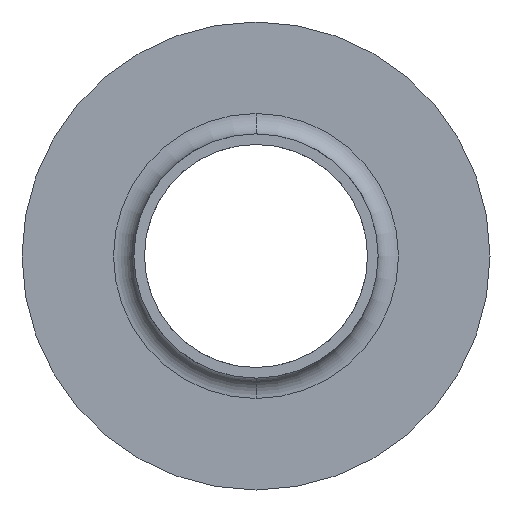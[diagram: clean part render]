
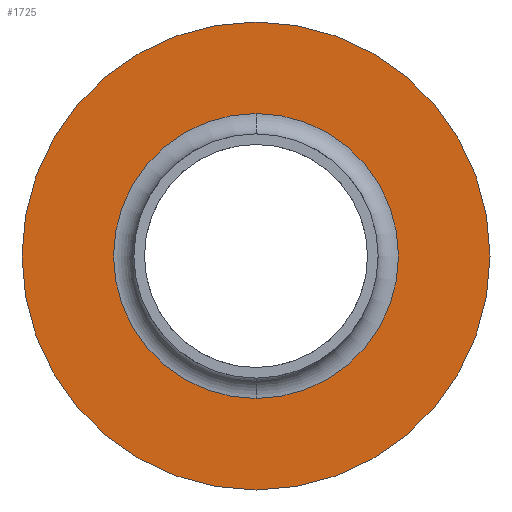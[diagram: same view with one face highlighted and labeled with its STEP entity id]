
A CAD part, front view. The second image highlights one B-rep face of the part: STEP entity #1725.
In plain terms, the highlighted planar face has unit normal (0, -1, 0).
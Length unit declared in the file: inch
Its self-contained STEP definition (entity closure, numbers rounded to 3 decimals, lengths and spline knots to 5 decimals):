
#4 = CARTESIAN_POINT ( 'NONE',  ( 0., 0.38789, 0. ) ) ;
#69 = CIRCLE ( 'NONE', #717, 1.437 ) ;
#70 = CARTESIAN_POINT ( 'NONE',  ( 0., 0.38789, -1.437 ) ) ;
#106 = EDGE_CURVE ( 'NONE', #1174, #1313, #248, .T. ) ;
#248 = CIRCLE ( 'NONE', #2646, 0.875 ) ;
#294 = PLANE ( 'NONE',  #2235 ) ;
#297 = EDGE_CURVE ( 'NONE', #1740, #2353, #69, .T. ) ;
#338 = DIRECTION ( 'NONE',  ( 0., 0., -1. ) ) ;
#367 = DIRECTION ( 'NONE',  ( 0., -1., 0. ) ) ;
#438 = CIRCLE ( 'NONE', #950, 1.437 ) ;
#520 = DIRECTION ( 'NONE',  ( 0., 0., 1. ) ) ;
#717 = AXIS2_PLACEMENT_3D ( 'NONE', #2119, #367, #338 ) ;
#739 = ORIENTED_EDGE ( 'NONE', *, *, #1652, .T. ) ;
#804 = DIRECTION ( 'NONE',  ( 0., -1., 0. ) ) ;
#950 = AXIS2_PLACEMENT_3D ( 'NONE', #4, #804, #1322 ) ;
#1044 = CARTESIAN_POINT ( 'NONE',  ( 0., 0.38789, 0. ) ) ;
#1174 = VERTEX_POINT ( 'NONE', #2451 ) ;
#1177 = DIRECTION ( 'NONE',  ( 0., 1., 0. ) ) ;
#1229 = CIRCLE ( 'NONE', #1924, 0.875 ) ;
#1268 = DIRECTION ( 'NONE',  ( 0., 0., -1. ) ) ;
#1313 = VERTEX_POINT ( 'NONE', #2280 ) ;
#1322 = DIRECTION ( 'NONE',  ( 0., 0., -1. ) ) ;
#1380 = CARTESIAN_POINT ( 'NONE',  ( -1.437, 0.38789, 0. ) ) ;
#1448 = FACE_BOUND ( 'NONE', #1816, .T. ) ;
#1652 = EDGE_CURVE ( 'NONE', #2353, #1740, #438, .T. ) ;
#1692 = ORIENTED_EDGE ( 'NONE', *, *, #2510, .F. ) ;
#1725 = ADVANCED_FACE ( 'NONE', ( #1448, #2548 ), #294, .F. ) ;
#1740 = VERTEX_POINT ( 'NONE', #70 ) ;
#1816 = EDGE_LOOP ( 'NONE', ( #1692, #2400 ) ) ;
#1924 = AXIS2_PLACEMENT_3D ( 'NONE', #1044, #2563, #1268 ) ;
#1953 = EDGE_LOOP ( 'NONE', ( #2093, #739 ) ) ;
#2016 = CARTESIAN_POINT ( 'NONE',  ( 0., 0.38789, 1.437 ) ) ;
#2093 = ORIENTED_EDGE ( 'NONE', *, *, #297, .T. ) ;
#2119 = CARTESIAN_POINT ( 'NONE',  ( 0., 0.38789, 0. ) ) ;
#2235 = AXIS2_PLACEMENT_3D ( 'NONE', #1380, #1177, #520 ) ;
#2280 = CARTESIAN_POINT ( 'NONE',  ( 0., 0.38789, -0.875 ) ) ;
#2353 = VERTEX_POINT ( 'NONE', #2016 ) ;
#2400 = ORIENTED_EDGE ( 'NONE', *, *, #106, .F. ) ;
#2451 = CARTESIAN_POINT ( 'NONE',  ( 0., 0.38789, 0.875 ) ) ;
#2465 = CARTESIAN_POINT ( 'NONE',  ( 0., 0.38789, 0. ) ) ;
#2479 = DIRECTION ( 'NONE',  ( 0., -1., 0. ) ) ;
#2489 = DIRECTION ( 'NONE',  ( 0., 0., -1. ) ) ;
#2510 = EDGE_CURVE ( 'NONE', #1313, #1174, #1229, .T. ) ;
#2548 = FACE_OUTER_BOUND ( 'NONE', #1953, .T. ) ;
#2563 = DIRECTION ( 'NONE',  ( 0., -1., 0. ) ) ;
#2646 = AXIS2_PLACEMENT_3D ( 'NONE', #2465, #2479, #2489 ) ;
